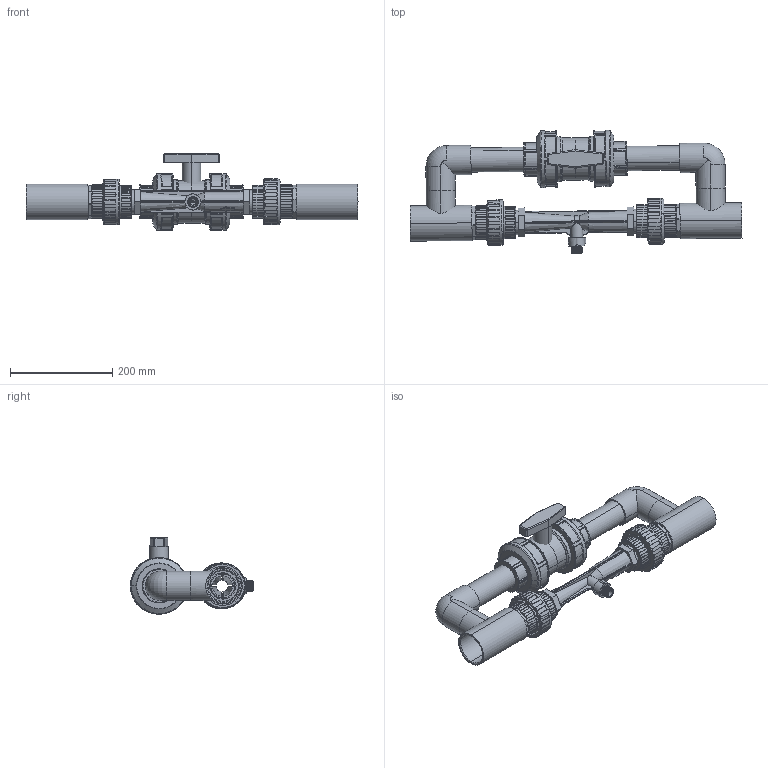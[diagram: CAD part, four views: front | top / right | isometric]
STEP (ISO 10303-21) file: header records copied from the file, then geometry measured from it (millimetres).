
FILE_DESCRIPTION (( 'STEP AP214' ), '1' );
FILE_NAME ('9-0045_for IU-316.STEP', '2018-08-01T16:06:21', ( '' ), ( '' ), 'SwSTEP 2.0', 'SolidWorks 2017', '' );
FILE_SCHEMA (( 'AUTOMOTIVE_DESIGN' ));
Length unit declared in the file: inch
Products named in the file (1): 9-0045_for IU-316
Bounding box: 648.38 x 240.83 x 149.22 mm (x, y, z)
Surface area: 515418.2 mm2 (no closed solid volume)
Topology: 0 solids, 26 shells, 1325 faces, 3923 edges, 2551 vertices
Faces by surface type: plane 602, cylinder 478, torus 185, cone 47, sphere 11, bspline 2
Entity records: 66199 total; most frequent: CARTESIAN_POINT 13972, DIRECTION 7422, ORIENTED_EDGE 7141, EDGE_CURVE 3912, AXIS2_PLACEMENT_3D 2729, VERTEX_POINT 2551, LINE 1964, VECTOR 1964
